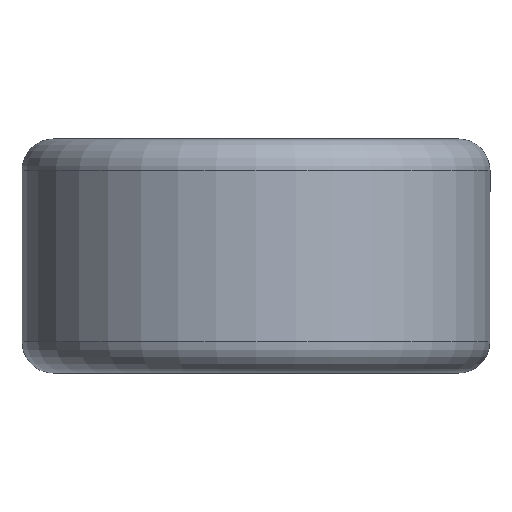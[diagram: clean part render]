
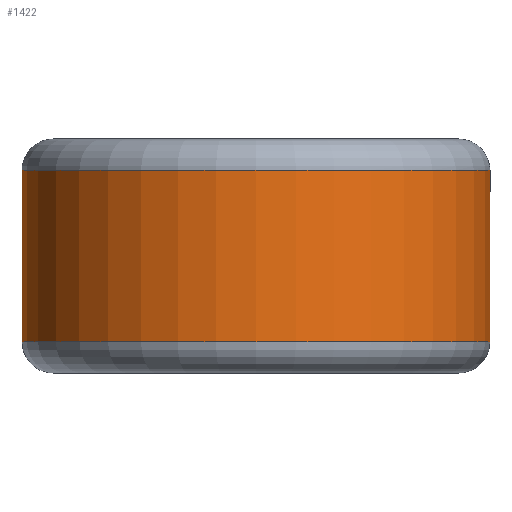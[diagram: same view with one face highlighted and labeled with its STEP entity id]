
A CAD part, left-side view. The second image highlights one B-rep face of the part: STEP entity #1422.
In plain terms, the highlighted cylindrical face has radius 9 mm (diameter 18 mm), a partial arc.
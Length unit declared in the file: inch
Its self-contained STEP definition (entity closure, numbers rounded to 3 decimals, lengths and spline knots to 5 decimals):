
#154=DIRECTION('',(0.,0.,-1.));
#155=VECTOR('',#154,0.15032);
#156=CARTESIAN_POINT('',(0.33393,0.1185,0.25233));
#157=LINE('',#156,#155);
#204=CARTESIAN_POINT('',(0.256,-0.24498,0.12642));
#205=CARTESIAN_POINT('',(0.25187,-0.24929,
0.12642));
#206=CARTESIAN_POINT('',(0.24393,-0.25715,
0.12741));
#207=CARTESIAN_POINT('',(0.23322,-0.26686,
0.13136));
#208=CARTESIAN_POINT('',(0.22403,-0.27459,
0.13727));
#209=CARTESIAN_POINT('',(0.21658,-0.28047,
0.14465));
#210=CARTESIAN_POINT('',(0.21091,-0.28475,
0.15316));
#211=CARTESIAN_POINT('',(0.2071,-0.28751,
0.16244));
#212=CARTESIAN_POINT('',(0.20518,-0.28888,
0.17218));
#213=CARTESIAN_POINT('',(0.20517,-0.28889,
0.18208));
#214=CARTESIAN_POINT('',(0.20708,-0.28753,
0.1918));
#215=CARTESIAN_POINT('',(0.21085,-0.28479,
0.20107));
#216=CARTESIAN_POINT('',(0.2165,-0.28054,
0.20958));
#217=CARTESIAN_POINT('',(0.22393,-0.27467,
0.21697));
#218=CARTESIAN_POINT('',(0.23312,-0.26695,
0.22292));
#219=CARTESIAN_POINT('',(0.24387,-0.25722,
0.2269));
#220=CARTESIAN_POINT('',(0.25184,-0.24932,
0.22792));
#221=CARTESIAN_POINT('',(0.256,-0.24498,0.22792));
#223=CARTESIAN_POINT('',(0.256,-0.24498,0.22792));
#224=CARTESIAN_POINT('',(0.26023,-0.24056,
0.22792));
#225=CARTESIAN_POINT('',(0.26799,-0.23199,
0.22688));
#226=CARTESIAN_POINT('',(0.27776,-0.22015,
0.22336));
#227=CARTESIAN_POINT('',(0.28582,-0.20954,
0.21855));
#228=CARTESIAN_POINT('',(0.29233,-0.20032,
0.21293));
#229=CARTESIAN_POINT('',(0.2975,-0.19253,
0.20674));
#230=CARTESIAN_POINT('',(0.30151,-0.18615,
0.20005));
#231=CARTESIAN_POINT('',(0.30444,-0.18132,
0.19297));
#232=CARTESIAN_POINT('',(0.30632,-0.17811,
0.18526));
#233=CARTESIAN_POINT('',(0.30697,-0.17697,
0.17697));
#234=CARTESIAN_POINT('',(0.30626,-0.17821,
0.16874));
#235=CARTESIAN_POINT('',(0.30436,-0.18144,
0.16115));
#236=CARTESIAN_POINT('',(0.30147,-0.18623,
0.15419));
#237=CARTESIAN_POINT('',(0.29749,-0.19255,
0.14759));
#238=CARTESIAN_POINT('',(0.29233,-0.20033,
0.1414));
#239=CARTESIAN_POINT('',(0.28581,-0.20955,
0.13577));
#240=CARTESIAN_POINT('',(0.27773,-0.22019,
0.13095));
#241=CARTESIAN_POINT('',(0.26795,-0.23203,
0.12744));
#242=CARTESIAN_POINT('',(0.26021,-0.24058,
0.12642));
#243=CARTESIAN_POINT('',(0.256,-0.24498,0.12642));
#245=CARTESIAN_POINT('',(0.,0.,0.3071));
#246=DIRECTION('',(0.,0.,1.));
#247=DIRECTION('',(0.998,0.067,0.));
#248=AXIS2_PLACEMENT_3D('',#245,#246,#247);
#250=DIRECTION('',(0.,0.,1.));
#251=VECTOR('',#250,0.01236);
#252=CARTESIAN_POINT('',(0.33393,0.1185,0.08964));
#253=LINE('',#252,#251);
#254=CARTESIAN_POINT('',(0.33393,0.1185,0.26469));
#255=CARTESIAN_POINT('',(0.32845,0.13393,
0.26956));
#256=CARTESIAN_POINT('',(0.316,0.16228,
0.27874));
#257=CARTESIAN_POINT('',(0.29477,0.19791,
0.28856));
#258=CARTESIAN_POINT('',(0.27254,0.22732,
0.2939));
#259=CARTESIAN_POINT('',(0.25045,0.25127,
0.29488));
#260=CARTESIAN_POINT('',(0.22951,0.27039,
0.29194));
#261=CARTESIAN_POINT('',(0.21014,0.28559,
0.28563));
#262=CARTESIAN_POINT('',(0.19258,0.29765,
0.27636));
#263=CARTESIAN_POINT('',(0.17702,0.3071,
0.26446));
#264=CARTESIAN_POINT('',(0.16368,0.31436,
0.25022));
#265=CARTESIAN_POINT('',(0.15286,0.31972,
0.23394));
#266=CARTESIAN_POINT('',(0.14485,0.3234,
0.21598));
#267=CARTESIAN_POINT('',(0.13991,0.32554,
0.19684));
#268=CARTESIAN_POINT('',(0.13826,0.32624,
0.17709));
#269=CARTESIAN_POINT('',(0.13994,0.32553,
0.15733));
#270=CARTESIAN_POINT('',(0.1449,0.32337,
0.1382));
#271=CARTESIAN_POINT('',(0.15294,0.31968,
0.12025));
#272=CARTESIAN_POINT('',(0.16378,0.3143,
0.10398));
#273=CARTESIAN_POINT('',(0.17713,0.30703,
0.08976));
#274=CARTESIAN_POINT('',(0.19271,0.29756,
0.07789));
#275=CARTESIAN_POINT('',(0.21029,0.28548,
0.06864));
#276=CARTESIAN_POINT('',(0.22967,0.27025,
0.06235));
#277=CARTESIAN_POINT('',(0.25063,0.25109,
0.05944));
#278=CARTESIAN_POINT('',(0.27268,0.22714,
0.06045));
#279=CARTESIAN_POINT('',(0.29488,0.19775,
0.06581));
#280=CARTESIAN_POINT('',(0.31603,0.1622,
0.07562));
#281=CARTESIAN_POINT('',(0.32846,0.1339,
0.08478));
#282=CARTESIAN_POINT('',(0.33393,0.1185,0.08964));
#284=DIRECTION('',(0.,0.,1.));
#285=VECTOR('',#284,0.01236);
#286=CARTESIAN_POINT('',(0.33393,0.1185,0.25233));
#287=LINE('',#286,#285);
#346=CARTESIAN_POINT('',(0.35354,-0.02362,
0.04723));
#357=DIRECTION('',(0.,0.,1.));
#358=VECTOR('',#357,0.25987);
#359=CARTESIAN_POINT('',(0.35354,-0.02362,
0.04723));
#360=LINE('',#359,#358);
#370=CARTESIAN_POINT('',(0.35354,-0.02362,
0.3071));
#435=CARTESIAN_POINT('',(0.35354,0.02362,
0.3071));
#446=DIRECTION('',(0.,0.,-1.));
#447=VECTOR('',#446,0.25987);
#448=CARTESIAN_POINT('',(0.35354,0.02362,
0.3071));
#449=LINE('',#448,#447);
#459=CARTESIAN_POINT('',(0.35354,0.02362,
0.04723));
#781=CARTESIAN_POINT('',(0.,0.,0.04723));
#782=DIRECTION('',(0.,0.,-1.));
#783=DIRECTION('',(0.998,-0.067,0.));
#784=AXIS2_PLACEMENT_3D('',#781,#782,#783);
#831=CARTESIAN_POINT('',(0.33393,0.1185,0.25233));
#833=VERTEX_POINT('',#831);
#835=CARTESIAN_POINT('',(0.33393,0.1185,0.102));
#836=VERTEX_POINT('',#835);
#904=VERTEX_POINT('',#346);
#905=VERTEX_POINT('',#370);
#919=VERTEX_POINT('',#435);
#921=VERTEX_POINT('',#459);
#928=VERTEX_POINT('',#204);
#929=VERTEX_POINT('',#221);
#930=CARTESIAN_POINT('',(0.33393,0.1185,0.08964));
#931=VERTEX_POINT('',#930);
#932=CARTESIAN_POINT('',(0.33393,0.1185,0.26469));
#933=VERTEX_POINT('',#932);
#1394=CARTESIAN_POINT('',(0.,0.,0.35433));
#1395=DIRECTION('',(0.,0.,-1.));
#1396=DIRECTION('',(-1.,0.,0.));
#1397=AXIS2_PLACEMENT_3D('',#1394,#1395,#1396);
#1398=CYLINDRICAL_SURFACE('',#1397,0.35433);
#1400=ORIENTED_EDGE('',*,*,#1399,.T.);
#1402=ORIENTED_EDGE('',*,*,#1401,.F.);
#1404=ORIENTED_EDGE('',*,*,#1403,.T.);
#1406=ORIENTED_EDGE('',*,*,#1405,.F.);
#1407=EDGE_LOOP('',(#1400,#1402,#1404,#1406));
#1408=FACE_OUTER_BOUND('',#1407,.F.);
#1410=ORIENTED_EDGE('',*,*,#1409,.F.);
#1412=ORIENTED_EDGE('',*,*,#1411,.F.);
#1413=EDGE_LOOP('',(#1410,#1412));
#1414=FACE_BOUND('',#1413,.F.);
#1415=ORIENTED_EDGE('',*,*,#1216,.F.);
#1417=ORIENTED_EDGE('',*,*,#1416,.F.);
#1418=ORIENTED_EDGE('',*,*,#1212,.F.);
#1419=ORIENTED_EDGE('',*,*,#1254,.T.);
#1420=EDGE_LOOP('',(#1415,#1417,#1418,#1419));
#1421=FACE_BOUND('',#1420,.F.);
#222=B_SPLINE_CURVE_WITH_KNOTS('',3,(#204,#205,#206,#207,#208,#209,#210,#211,
#212,#213,#214,#215,#216,#217,#218,#219,#220,#221),.UNSPECIFIED.,.F.,.F.,(4,1,1,
1,1,1,1,1,1,1,1,1,1,1,1,4),(0.,0.06667,0.13333,0.2,
0.26667,0.33333,0.4,0.46667,0.53333,
0.6,0.66667,0.73333,0.8,0.86667,
0.93333,1.),.UNSPECIFIED.);
#244=B_SPLINE_CURVE_WITH_KNOTS('',3,(#223,#224,#225,#226,#227,#228,#229,#230,
#231,#232,#233,#234,#235,#236,#237,#238,#239,#240,#241,#242,#243),.UNSPECIFIED.,
.F.,.F.,(4,1,1,1,1,1,1,1,1,1,1,1,1,1,1,1,1,1,4),(0.,0.05556,
0.11111,0.16667,0.22222,0.27778,
0.33333,0.38889,0.44444,0.5,0.55556,
0.61111,0.66667,0.72222,0.77778,
0.83333,0.88889,0.94444,1.),.UNSPECIFIED.);
#249=CIRCLE('',#248,0.35433);
#283=B_SPLINE_CURVE_WITH_KNOTS('',3,(#254,#255,#256,#257,#258,#259,#260,#261,
#262,#263,#264,#265,#266,#267,#268,#269,#270,#271,#272,#273,#274,#275,#276,#277,
#278,#279,#280,#281,#282),.UNSPECIFIED.,.F.,.F.,(4,1,1,1,1,1,1,1,1,1,1,1,1,1,1,
1,1,1,1,1,1,1,1,1,1,1,4),(0.,0.03846,0.07692,
0.11538,0.15385,0.19231,0.23077,
0.26923,0.30769,0.34615,0.38462,
0.42308,0.46154,0.5,0.53846,0.57692,
0.61538,0.65385,0.69231,0.73077,
0.76923,0.80769,0.84615,0.88462,
0.92308,0.96154,1.),.UNSPECIFIED.);
#785=CIRCLE('',#784,0.35433);
#1212=EDGE_CURVE('',#833,#933,#287,.T.);
#1216=EDGE_CURVE('',#931,#836,#253,.T.);
#1254=EDGE_CURVE('',#833,#836,#157,.T.);
#1399=EDGE_CURVE('',#919,#905,#249,.T.);
#1401=EDGE_CURVE('',#904,#905,#360,.T.);
#1403=EDGE_CURVE('',#904,#921,#785,.T.);
#1405=EDGE_CURVE('',#919,#921,#449,.T.);
#1409=EDGE_CURVE('',#928,#929,#222,.T.);
#1411=EDGE_CURVE('',#929,#928,#244,.T.);
#1416=EDGE_CURVE('',#933,#931,#283,.T.);
#1422=ADVANCED_FACE('',(#1408,#1414,#1421),#1398,.T.);
